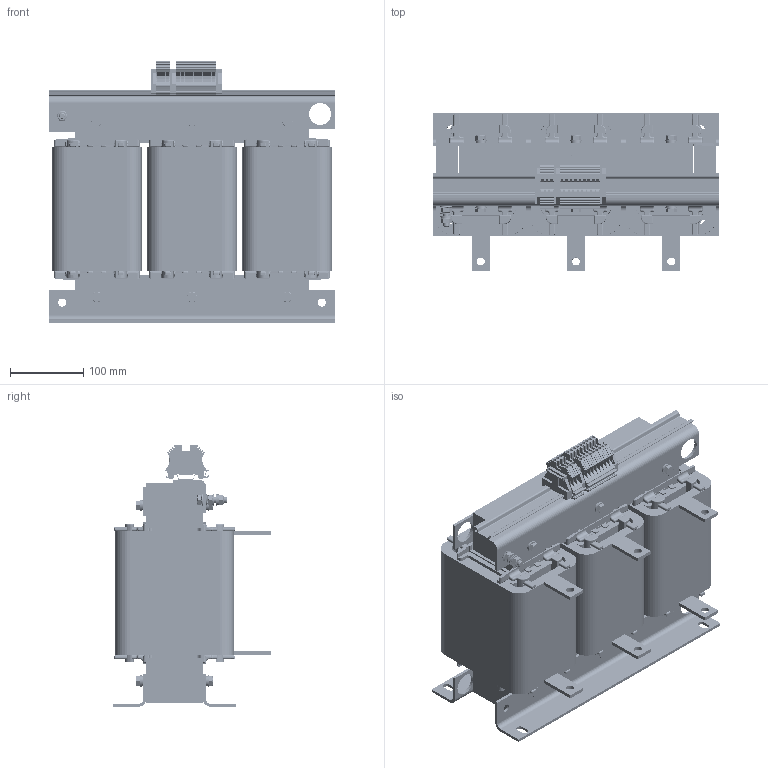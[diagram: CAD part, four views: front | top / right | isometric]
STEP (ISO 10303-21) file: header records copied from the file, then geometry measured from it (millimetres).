
FILE_DESCRIPTION((''),'2;1');
FILE_NAME('C:\Users\fp1\CAD-Daten\DTZ\DTZ10,0 400 690 42.stp','2014-07-02T11:29:12',('FP1'),(''),'Autodesk Inventor 2013','Autodesk Inventor 2013','');
FILE_SCHEMA(('AUTOMOTIVE_DESIGN { 1 0 10303 214 1 1 1 1 }'));
Length unit declared in the file: millimetre
Products named in the file (1): Bauteil70
Bounding box: 390 x 215.55 x 357 mm (x, y, z)
Volume: 12810489 mm3; surface area: 1526396.1 mm2
Topology: 4 solids, 4 shells, 8811 faces, 24967 edges, 16056 vertices
Faces by surface type: plane 6469, cylinder 1739, bspline 188, torus 170, sphere 168, cone 77
Full cylindrical faces by diameter (mm): 2.95 x72, 4.725 x24, 8 x3, 8.3 x2, 8.4 x2, 11 x9, 11.63 x7, 14 x12, 16 x14, 30 x4
Entity records: 285720 total; most frequent: CARTESIAN_POINT 60035, ORIENTED_EDGE 48876, DIRECTION 43963, EDGE_CURVE 24438, VECTOR 17873, LINE 17873, VERTEX_POINT 15867, AXIS2_PLACEMENT_3D 13045
